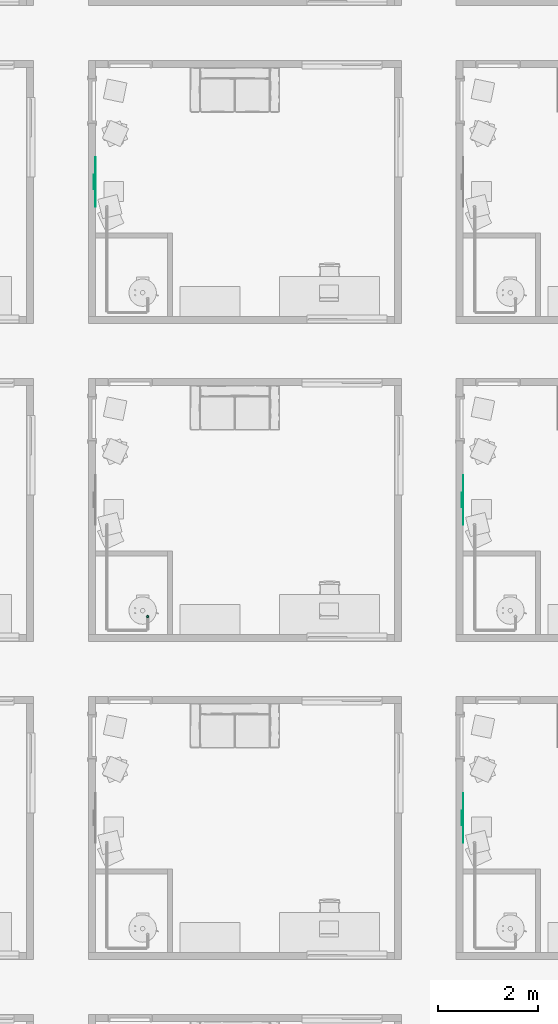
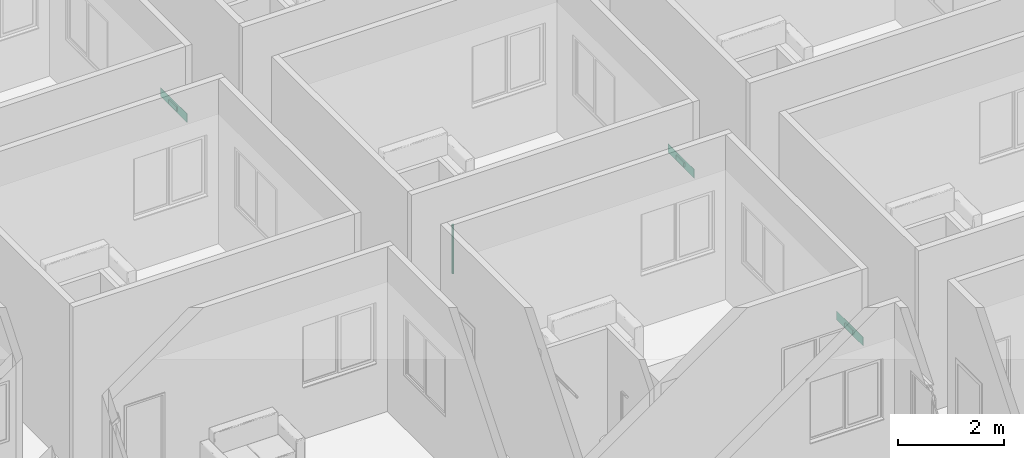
# One storey, part 36 of 69: 3 air terminals, 1 pipe segment.
"""IFC4 building model written with IfcOpenShell, lengths in centimetres."""

from ifc_helpers import new_model, entity, si_unit, converted_unit, derived_unit, direction, frame, origin, place, context, subcontext, project, spatial, arc, indexed_curve, outline, extrude, source, transform, mapped, material, constituent, constituent_set, type_object, type_shapes, element, save


model = new_model("IFC4")

# Units and contexts
model_context = context("Model", 3, precision=0.001, world=origin(), true_north=direction((6.123233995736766e-17, 1.0)))
body_context = subcontext(model_context, "Body", "Model", "MODEL_VIEW")
ifc_project = project(units=[si_unit("LENGTHUNIT", "METRE", prefix="CENTI"), si_unit("AREAUNIT", "SQUARE_METRE"), si_unit("VOLUMEUNIT", "CUBIC_METRE"), derived_unit("THERMALTRANSMITTANCEUNIT", [(si_unit("MASSUNIT", "GRAM", prefix="KILO"), 1), (si_unit("THERMODYNAMICTEMPERATUREUNIT", "KELVIN"), -1), (si_unit("TIMEUNIT", "SECOND"), -3)]), converted_unit("PLANEANGLEUNIT", "DEGREE", entity("IfcPlaneAngleMeasure", 0.017453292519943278), si_unit("PLANEANGLEUNIT", "RADIAN"), dimensions=[0, 0, 0, 0, 0, 0, 0]), derived_unit("MASSDENSITYUNIT", [(si_unit("MASSUNIT", "GRAM", prefix="KILO"), 1), (si_unit("LENGTHUNIT", "METRE"), -3)]), derived_unit("VAPORPERMEABILITYUNIT", [(si_unit("LENGTHUNIT", "METRE"), -1), (si_unit("TIMEUNIT", "SECOND"), 1)]), derived_unit("USERDEFINED", [(si_unit("MASSUNIT", "GRAM", prefix="KILO"), 1), (si_unit("TIMEUNIT", "SECOND"), -3), (si_unit("LENGTHUNIT", "METRE"), 3), (si_unit("ELECTRICCURRENTUNIT", "AMPERE"), -2)]), derived_unit("SPECIFICHEATCAPACITYUNIT", [(si_unit("THERMODYNAMICTEMPERATUREUNIT", "KELVIN"), -1), (si_unit("LENGTHUNIT", "METRE"), 2), (si_unit("TIMEUNIT", "SECOND"), -2)]), derived_unit("THERMALCONDUCTANCEUNIT", [(si_unit("MASSUNIT", "GRAM", prefix="KILO"), 1), (si_unit("THERMODYNAMICTEMPERATUREUNIT", "KELVIN"), -1), (si_unit("TIMEUNIT", "SECOND"), -3), (si_unit("LENGTHUNIT", "METRE"), 1)]), si_unit("PRESSUREUNIT", "PASCAL"), derived_unit("MODULUSOFELASTICITYUNIT", [(si_unit("MASSUNIT", "GRAM", prefix="KILO"), 1), (si_unit("LENGTHUNIT", "METRE"), -1), (si_unit("TIMEUNIT", "SECOND"), -2)]), derived_unit("THERMALEXPANSIONCOEFFICIENTUNIT", [(si_unit("THERMODYNAMICTEMPERATUREUNIT", "KELVIN"), -1)])], contexts=[model_context])

# Site, building, storey, space
site_placement = place(None, origin())
site = spatial("IfcSite", under=ifc_project, at=site_placement, Name="Default", CompositionType="ELEMENT")
building_placement = place(site_placement, origin())
building = spatial("IfcBuilding", under=site, at=building_placement, Name="IDS Escape Game Building", CompositionType="ELEMENT")
storey_placement = place(building_placement, origin())
storey = spatial("IfcBuildingStorey", under=building, at=storey_placement, Name="00_Ground Floor", CompositionType="ELEMENT", Elevation=0.0)
space_1_placement = place(storey_placement, origin())
space_1 = spatial("IfcSpace", under=storey, at=space_1_placement, Name="14", CompositionType="ELEMENT", PredefinedType="NOTDEFINED")

# Air terminal
ifc_material_1 = material(Name="TB_LVC_referentievlak_00_gen_BERSnl", Category="BE Default")
ifc_constituent_1 = constituent(ifc_material_1, Name="TB_LVC_referentievlak_00_gen_BERSnl", Category="BE Default", fraction=0.00014157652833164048)
ifc_material_2 = material(Name="ARC_FME.h2_staal_00_gen_BERSnl", Category="h - metaal")
ifc_constituent_2 = constituent(ifc_material_2, Name="ARC_FME.h2_staal_00_gen_BERSnl", Category="h - metaal", fraction=0.9998584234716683)
ifc_constituent_set_1 = constituent_set(constituents=[ifc_constituent_1, ifc_constituent_2])
ifc_constituent_3 = constituent(ifc_material_1, Name="BE Referentievlak", Category="BE Default", fraction=0.00014157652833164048)
ifc_constituent_4 = constituent(ifc_material_2, Name="Terminals", Category="h - metaal", fraction=0.9998584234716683)
ifc_constituent_set_2 = constituent_set(constituents=[ifc_constituent_3, ifc_constituent_4])
air_terminal_type = type_object("IfcAirTerminalType", Name="TB_57_AIR_FB_aanzuigrooster - 1 rechthoekige aansluiting - calculated flow_gen_BERSnl:Air Terminal - Exhaust", PredefinedType="GRILLE", material=ifc_constituent_set_2)
shared_shape = source(origin(), body_context, "Body", "SweptSolid", [
    extrude(outline(indexed_curve([(-0.5, -2.0290176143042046e-15), (6.8507733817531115e-16, -0.5000000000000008), (0.5, 2.0290176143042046e-15), (-5.361679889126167e-16, 0.49999999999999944)], segments=[arc(1, 2, 3), arc(3, 4, 1)], self_intersect=False)), frame((0.0, 0.0, 0.0), z_axis=(1.7453292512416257e-05, 0.0, 1.0), x_axis=(0.0, 1.0, 0.0)), (0.0, 0.0, 1.0), 0.09999999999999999),
    extrude(outline(indexed_curve([(-14.900000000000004, -4.9), (14.900000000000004, -4.9), (14.900000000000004, 4.9), (-14.900000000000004, 4.9), (-14.900000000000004, -4.9)], self_intersect=False)), frame((-4.886921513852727e-05, 0.0, -2.7999999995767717)), (0.0, 0.0, 1.0), 2.7999999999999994),
    extrude(outline(indexed_curve([(-50.0, -10.0), (50.0, -10.0), (50.0, 10.0), (-50.0, 10.0), (-50.0, -10.0)], self_intersect=False)), frame((0.0, 0.0, 0.0), z_axis=(0.0, 0.0, 1.0), x_axis=(-1.0, 0.0, 0.0)), (0.0, 0.0, 1.0), 0.6999999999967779),
])
type_shapes(air_terminal_type, [shared_shape])
air_terminal_1_placement = place(space_1_placement, frame((4435.0, 921.0, 24.0), z_axis=(1.0, 0.0, 0.0), x_axis=(0.0, 1.0, 0.0)))
element("IfcAirTerminal", 1, at=air_terminal_1_placement, inside=space_1, type_object=air_terminal_type, material=ifc_constituent_set_1, Name="TB_57_AIR_FB_aanzuigrooster - 1 rechthoekige aansluiting - calculated flow_gen_BERSnl:Air Terminal - Exhaust", ObjectType="TB_57_AIR_FB_aanzuigrooster - 1 rechthoekige aansluiting - calculated flow_gen_BERSnl:Air Terminal - Exhaust", PredefinedType="GRILLE", context=body_context, shape_type="MappedRepresentation", body=[
    mapped(shared_shape, transform((0.0, 0.0, 0.0), scale=1.0)),
])

# Space
space_2_placement = place(storey_placement, origin())
space_2 = spatial("IfcSpace", under=storey, at=space_2_placement, Name="21", CompositionType="ELEMENT", PredefinedType="NOTDEFINED")

# Air terminal
ifc_constituent_5 = constituent(ifc_material_1, Name="TB_LVC_referentievlak_00_gen_BERSnl", Category="BE Default", fraction=0.00014157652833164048)
ifc_constituent_6 = constituent(ifc_material_2, Name="ARC_FME.h2_staal_00_gen_BERSnl", Category="h - metaal", fraction=0.9998584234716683)
ifc_constituent_set_3 = constituent_set(constituents=[ifc_constituent_5, ifc_constituent_6])
air_terminal_2_placement = place(space_2_placement, frame((4435.0, 1559.0, 24.0), z_axis=(1.0, 0.0, 0.0), x_axis=(0.0, 1.0, 0.0)))
element("IfcAirTerminal", 2, at=air_terminal_2_placement, inside=space_2, type_object=air_terminal_type, material=ifc_constituent_set_3, Name="TB_57_AIR_FB_aanzuigrooster - 1 rechthoekige aansluiting - calculated flow_gen_BERSnl:Air Terminal - Exhaust", ObjectType="TB_57_AIR_FB_aanzuigrooster - 1 rechthoekige aansluiting - calculated flow_gen_BERSnl:Air Terminal - Exhaust", PredefinedType="GRILLE", context=body_context, shape_type="MappedRepresentation", body=[
    mapped(shared_shape, transform((0.0, 0.0, 0.0), scale=1.0)),
])

# Space
space_3_placement = place(storey_placement, origin())
space_3 = spatial("IfcSpace", under=storey, at=space_3_placement, Name="27", CompositionType="ELEMENT", PredefinedType="NOTDEFINED")

# Air terminal
ifc_constituent_7 = constituent(ifc_material_1, Name="TB_LVC_referentievlak_00_gen_BERSnl", Category="BE Default", fraction=0.00014157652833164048)
ifc_constituent_8 = constituent(ifc_material_2, Name="ARC_FME.h2_staal_00_gen_BERSnl", Category="h - metaal", fraction=0.9998584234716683)
ifc_constituent_set_4 = constituent_set(constituents=[ifc_constituent_7, ifc_constituent_8])
air_terminal_3_placement = place(space_3_placement, frame((3697.0, 2197.0, 24.0), z_axis=(1.0, 0.0, 0.0), x_axis=(0.0, 1.0, 0.0)))
element("IfcAirTerminal", 3, at=air_terminal_3_placement, inside=space_3, type_object=air_terminal_type, material=ifc_constituent_set_4, Name="TB_57_AIR_FB_aanzuigrooster - 1 rechthoekige aansluiting - calculated flow_gen_BERSnl:Air Terminal - Exhaust", ObjectType="TB_57_AIR_FB_aanzuigrooster - 1 rechthoekige aansluiting - calculated flow_gen_BERSnl:Air Terminal - Exhaust", PredefinedType="GRILLE", context=body_context, shape_type="MappedRepresentation", body=[
    mapped(shared_shape, transform((0.0, 0.0, 0.0), scale=1.0)),
])

# Pipe segment
pipe_segment_type = type_object("IfcPipeSegmentType", Name="Pipe Types:Piping Aluminum", PredefinedType="NOTDEFINED")
pipe_segment_placement = place(storey_placement, origin())
element("IfcPipeSegment", 4, at=pipe_segment_placement, inside=storey, type_object=pipe_segment_type, Name="Pipe Types:Piping Aluminum", ObjectType="Pipe Types:Piping Aluminum", PredefinedType="NOTDEFINED", context=body_context, shape_type="SweptSolid", body=[
    extrude(outline(indexed_curve([(2.412999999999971, 0.0), (1.7062486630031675, 1.7062486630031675), (0.0, 2.412999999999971), (-1.7062486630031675, 1.7062486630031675), (-2.412999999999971, 0.0), (-1.7062486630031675, -1.7062486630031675), (0.0, -2.412999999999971), (1.7062486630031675, -1.7062486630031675)], segments=[arc(1, 2, 3), arc(3, 4, 5), arc(5, 6, 7), arc(7, 8, 1)], self_intersect=False)), frame((3802.150000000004, 1324.900000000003, 128.0), z_axis=(0.0, 0.0, 1.0), x_axis=(-1.0, 0.0, 0.0)), (0.0, 0.0, 1.0), 112.90000000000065),
])

save(model, "model.ifc")
